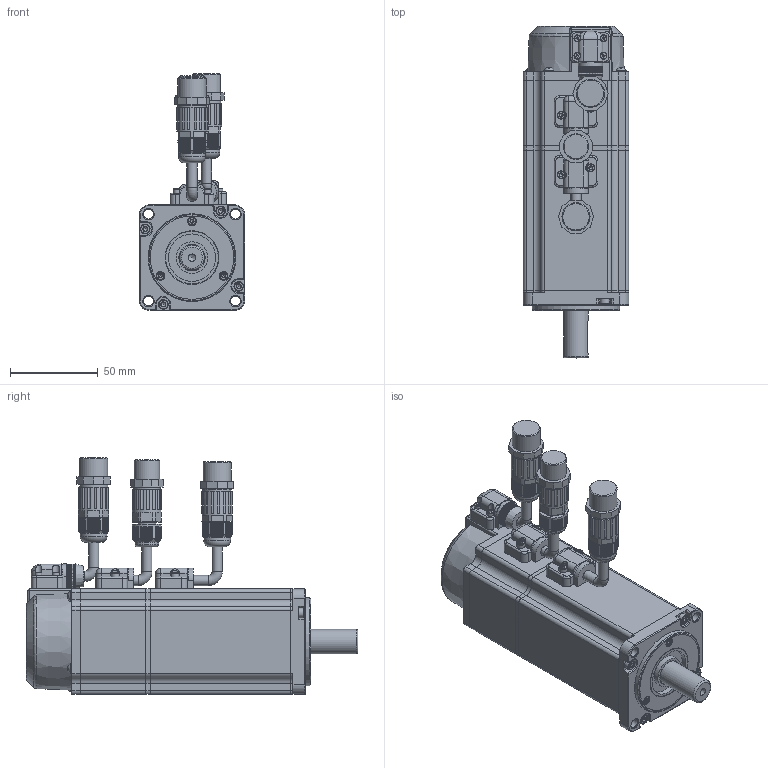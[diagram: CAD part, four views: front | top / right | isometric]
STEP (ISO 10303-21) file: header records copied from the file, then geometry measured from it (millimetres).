
FILE_DESCRIPTION(/* description */ (''),/* implementation_level */ '2;1');
FILE_NAME(/* name */ '60SY-M01930S1-5-Z.stp',/* time_stamp */ '2024-01-04T10:52:17+08:00',/* author */ (''),/* organization */ (''),/* preprocessor_version */ 'ST-DEVELOPER v18.1',/* originating_system */ 'SIEMENS PLM Software NX 2000',/* authorisation */ '');
FILE_SCHEMA (('AUTOMOTIVE_DESIGN { 1 0 10303 214 3 1 1 1 }'));
Products named in the file (1): 60S1电机外形图(00630)
Bounding box: 60 x 189 x 134.76 mm (x, y, z)
Volume: 484902.8 mm3; surface area: 109451.3 mm2
Topology: 36 solids, 42 shells, 3261 faces, 8738 edges, 5605 vertices
Faces by surface type: plane 2213, cylinder 650, sphere 142, cone 121, torus 80, bspline 55
Full cylindrical faces by diameter (mm): 1.5 x4, 2 x8, 2.05 x3, 2.1 x4, 2.38 x7, 2.5 x10, 2.6 x4, 2.874 x4, 2.9 x3, 3.4 x8, 3.5 x8, 3.8 x4, 4.2 x1, 4.5 x7, 5 x3, 5.5 x8, 5.8 x8, 10 x1, 13 x2, 13.5 x1, 14 x1, 14.5 x1, 14.8 x1, 15 x2, 15.3 x2, 15.6 x2, 16 x2, 16.1 x2, 16.5 x2, 17.3 x2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
Entity records: 103077 total; most frequent: CARTESIAN_POINT 25000, ORIENTED_EDGE 16864, DIRECTION 14867, EDGE_CURVE 8432, VERTEX_POINT 5537, AXIS2_PLACEMENT_3D 5028, LINE 4811, VECTOR 4811
